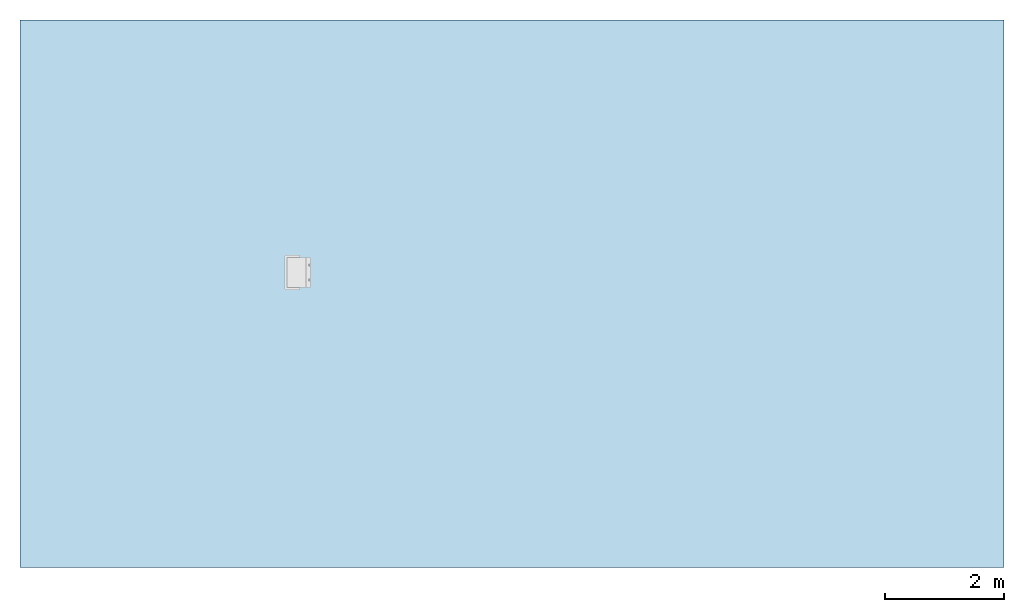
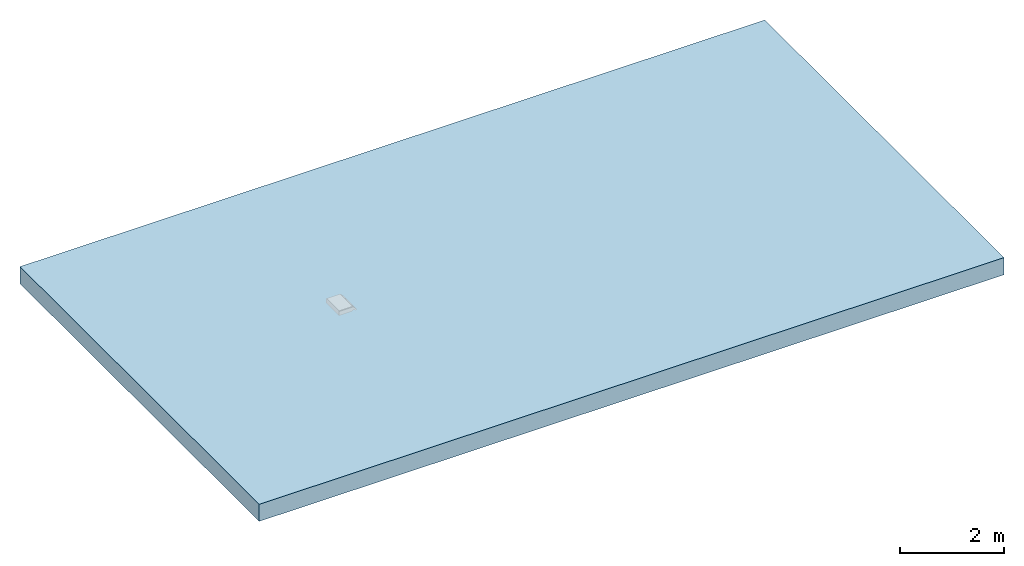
# One storey, incomplete: 1 slab, 3 openings.
"""IFC2X3 building model written with IfcOpenShell, lengths in millimetres."""

from ifc_helpers import new_model, entity, si_unit, converted_unit, direction, frame, frame_2d, origin, place, context, subcontext, project, spatial, polyline, circle_curve, parameter, trimmed, segment, composite_curve, rectangle, outline, extrude, faceted_brep, material, layer, layer_set, layer_usage, element, save


model = new_model("IFC2X3")

# Units and contexts
model_context = context("Model", 3, precision=1e-06, world=origin(), true_north=direction((2.0, 6.12303176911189e-17, 1.0)))
context_of_model = context(None, 3, precision=1e-06, world=origin(), true_north=direction((2.0, 6.12303176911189e-17, 1.0)))
body_context = subcontext(model_context, "Body", "Model", "MODEL_VIEW")
ifc_project = project(units=[si_unit("LENGTHUNIT", "METRE", prefix="MILLI"), si_unit("AREAUNIT", "SQUARE_METRE", prefix="MILLI"), si_unit("VOLUMEUNIT", "CUBIC_METRE", prefix="MILLI"), converted_unit("PLANEANGLEUNIT", "DEGREE", entity("IfcRatioMeasure", 0.0174532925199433), si_unit("PLANEANGLEUNIT", "RADIAN"), dimensions=[0, 0, 0, 0, 0, 0, 0]), si_unit("TIMEUNIT", "SECOND")], contexts=[model_context, context_of_model])

# Site, building, storey
site_placement = place(None, origin())
site = spatial("IfcSite", under=ifc_project, at=site_placement, Name="Default", CompositionType="ELEMENT")
building_placement = place(site_placement, origin())
building = spatial("IfcBuilding", under=site, at=building_placement, CompositionType="ELEMENT")
storey_placement = place(building_placement, origin())
storey = spatial("IfcBuildingStorey", under=building, at=storey_placement, Name="Level 1", CompositionType="ELEMENT", Elevation=0.0)

# Slab, openings
ifc_material = material(Name="Plant")
ifc_layer = layer(ifc_material, 400.0)
ifc_layer_set = layer_set([ifc_layer], Name="Floor:Generic Floor - 400mm")
ifc_layer_usage = layer_usage(ifc_layer_set, "AXIS3", "POSITIVE", 0.0)
slab_placement = place(storey_placement, frame((-17967.0691536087, -3738.31688706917, -400.0)))
slab = element("IfcSlab", 1, at=slab_placement, inside=storey, material=ifc_layer_usage, Name="Floor:Generic Floor - 400mm", ObjectType="Floor:Generic Floor - 400mm", PredefinedType="FLOOR", context=body_context, shape_type="SweptSolid", body=[
    extrude(rectangle(XDim=9180.0, YDim=16500.0, at=frame_2d((0.0, 0.0), x_axis=(0.0, -1.0))), frame((8250.0, 4590.0, 400.0), z_axis=(0.0, 0.0, -1.0), x_axis=(-1.0, 0.0, 0.0)), (0.0, 0.0, 1.0), 400.0),
])
opening_1_placement = place(slab_placement, frame((8950.14834522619, 9349.90839007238, -6490.0)))
element("IfcOpeningElement", 2, at=opening_1_placement, cuts=slab, ObjectType="Opening", context=body_context, shape_type="Brep", body=[
    faceted_brep([(0.0, 499.999875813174, 520.0), (0.352401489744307, 0.0, 520.0), (0.352401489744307, 0.0, 0.0), (0.0, 499.999875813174, 0.0), (322.66101438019, 340.113462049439, 57.0653540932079), (322.66101438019, 340.113462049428, 520.0), (322.54816570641, 500.227208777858, 520.0), (322.900567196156, 0.227332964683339, 0.0), (322.548165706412, 500.227208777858, 0.0), (322.78787894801, 160.113462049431, 57.0653540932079), (322.900567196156, 0.227332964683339, 520.0), (322.787878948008, 160.113462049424, 520.0), (457.135480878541, 340.113462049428, 520.0), (457.135480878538, 160.11346204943, 520.0), (457.135480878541, 340.113462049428, 57.0653540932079), (457.135480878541, 160.11346204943, 57.0653540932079)], [[[0, 1, 2]], [[2, 3, 0]], [[4, 5, 6]], [[7, 4, 8]], [[6, 8, 4]], [[9, 10, 11]], [[4, 7, 9]], [[10, 9, 7]], [[5, 11, 1]], [[10, 1, 11]], [[6, 5, 0]], [[1, 0, 5]], [[5, 12, 11]], [[11, 12, 13]], [[8, 0, 3]], [[0, 8, 6]], [[8, 3, 2]], [[2, 7, 8]], [[7, 2, 1]], [[1, 10, 7]], [[13, 12, 14]], [[14, 15, 13]], [[14, 5, 4]], [[5, 14, 12]], [[14, 4, 9]], [[9, 15, 14]], [[15, 9, 11]], [[11, 13, 15]]]),
])
opening_2_placement = place(slab_placement, frame((8950.14834522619, 9349.90839007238, -6490.0)))
element("IfcOpeningElement", 3, at=opening_2_placement, cuts=slab, ObjectType="Opening", context=body_context, shape_type="SweptSolid", body=[
    extrude(outline(composite_curve([segment(trimmed(circle_curve(frame_2d((0.112460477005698, 0.0), x_axis=(1.0, 0.0)), 250.0), [parameter(129.825371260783)], [parameter(230.174628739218)], True, "PARAMETER"), True, "CONTINUOUS"), segment(polyline([(-160.0, -192.0), (-160.0, -250.0)]), True, "CONTINUOUS"), segment(polyline([(-160.0, -250.0), (0.0, -250.0)]), True, "CONTINUOUS"), segment(polyline([(0.0, -250.0), (160.0, -250.0)]), True, "CONTINUOUS"), segment(polyline([(160.0, -250.0), (160.0, -192.0)]), True, "CONTINUOUS"), segment(trimmed(circle_curve(frame_2d((-0.112460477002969, 0.0), x_axis=(1.0, 0.0)), 250.0), [parameter(309.825371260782)], [parameter(50.1746287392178)], True, "PARAMETER"), True, "CONTINUOUS"), segment(polyline([(160.0, 192.0), (160.0, 250.0)]), True, "CONTINUOUS"), segment(polyline([(160.0, 250.0), (0.0, 250.0)]), True, "CONTINUOUS"), segment(polyline([(0.0, 250.0), (-160.0, 250.0)]), True, "CONTINUOUS"), segment(polyline([(-160.0, 250.0), (-160.0, 192.0)]), True, "CONTINUOUS")], self_intersect=False)), frame((4675.53205557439, 4945.80856217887, -2010.0), z_axis=(0.0, 0.0, 1.0), x_axis=(-1.0, 0.0, 0.0)), (0.0, 0.0, 1.0), 4.99999999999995),
])
opening_3_placement = place(slab_placement, frame((8950.14834522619, 9349.90839007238, -6490.0)))
element("IfcOpeningElement", 4, at=opening_3_placement, cuts=slab, ObjectType="Opening", context=body_context, shape_type="Brep", body=[
    faceted_brep([(43.5952722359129, 541.595272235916, 695.725125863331), (43.5952722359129, 541.595272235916, 770.0), (43.5952722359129, 41.595272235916, 770.0), (43.5952722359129, 41.595272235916, 695.725125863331), (43.5952722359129, 541.595272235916, 350.0), (43.5952722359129, 541.595272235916, 690.0), (43.5952722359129, 41.595272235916, 690.0), (43.5952722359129, 41.595272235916, 350.0), (77.346944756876, 541.595272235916, 350.0), (77.3469447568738, 42.8950540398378, 350.0), (77.3469447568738, 42.8950540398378, 0.0), (77.346944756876, 542.895054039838, 0.0), (77.346944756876, 542.895054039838, 365.0), (77.346944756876, 541.595272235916, 365.0), (398.595272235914, 542.895054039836, 365.0), (398.595272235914, 542.895054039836, 0.0), (398.595272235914, 541.595272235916, 350.0), (398.595272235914, 541.595272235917, 365.0), (398.595272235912, 42.8950540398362, 0.0), (398.595272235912, 42.8950540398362, 350.0), (433.595272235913, 541.595272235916, 350.0), (433.595272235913, 41.595272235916, 350.0), (433.595272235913, 41.595272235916, 770.0), (433.595272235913, 541.595272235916, 770.0), (259.595272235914, 41.595272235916, 695.725125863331), (259.595272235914, 41.595272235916, 690.0), (259.595272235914, 541.595272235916, 695.725125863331), (259.595272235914, 541.595272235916, 690.0), (2.27675571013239, 566.771653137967, 690.0), (1.59527223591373, 561.595272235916, 690.0), (21.5952722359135, 581.595272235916, 690.0), (7.45313661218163, 575.737407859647, 690.0), (4.27476416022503, 571.595272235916, 690.0), (1.59527223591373, 21.5952722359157, 690.0), (2.27675571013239, 16.4188913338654, 690.0), (4.27476416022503, 11.5952722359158, 690.0), (21.5952722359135, 1.5952722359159, 690.0), (11.5952722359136, 4.27476416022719, 690.0), (7.4531366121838, 7.45313661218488, 690.0), (11.5952722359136, 578.915780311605, 690.0), (259.595272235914, 581.595272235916, 690.0), (16.4188913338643, 2.27675571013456, 690.0), (259.595272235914, 1.59527223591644, 690.0), (16.4188913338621, 580.913788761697, 690.0), (259.595272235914, 581.595272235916, 695.725125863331), (21.5952722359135, 581.595272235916, 695.725125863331), (1.59527223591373, 561.595272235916, 695.725125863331), (1.59527223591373, 21.5952722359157, 695.725125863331), (259.595272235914, 1.59527223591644, 695.725125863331), (16.4188913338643, 2.27675571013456, 695.725125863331), (11.5952722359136, 4.27476416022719, 695.725125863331), (21.5952722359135, 1.5952722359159, 695.725125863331), (11.5952722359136, 578.915780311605, 695.725125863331), (16.4188913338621, 580.913788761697, 695.725125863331), (4.27476416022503, 571.595272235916, 695.725125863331), (7.45313661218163, 575.737407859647, 695.725125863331), (2.27675571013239, 566.771653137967, 695.725125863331), (7.4531366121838, 7.45313661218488, 695.725125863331), (4.27476416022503, 11.5952722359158, 695.725125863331), (2.27675571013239, 16.4188913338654, 695.725125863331)], [[[0, 1, 2]], [[2, 3, 0]], [[4, 5, 6]], [[6, 7, 4]], [[8, 9, 10]], [[11, 8, 10]], [[8, 11, 12]], [[13, 8, 12]], [[14, 15, 16]], [[17, 14, 16]], [[18, 19, 16]], [[15, 18, 16]], [[17, 13, 12]], [[12, 14, 17]], [[14, 12, 11]], [[11, 15, 14]], [[18, 11, 10]], [[11, 18, 15]], [[19, 10, 9]], [[10, 19, 18]], [[20, 19, 21]], [[7, 21, 19]], [[19, 20, 16]], [[4, 7, 9]], [[19, 9, 7]], [[9, 8, 4]], [[22, 2, 1]], [[1, 23, 22]], [[24, 3, 2]], [[25, 24, 22]], [[2, 22, 24]], [[25, 7, 6]], [[22, 21, 25]], [[7, 25, 21]], [[21, 22, 23]], [[23, 20, 21]], [[26, 27, 23]], [[17, 23, 27]], [[1, 26, 23]], [[1, 0, 26]], [[5, 13, 27]], [[16, 20, 17]], [[23, 17, 20]], [[4, 8, 13]], [[5, 4, 13]], [[27, 13, 17]], [[28, 29, 30]], [[31, 32, 30]], [[30, 32, 28]], [[29, 33, 5]], [[34, 35, 36]], [[37, 36, 38]], [[38, 36, 35]], [[33, 34, 36]], [[30, 39, 31]], [[29, 5, 30]], [[27, 40, 5]], [[30, 5, 40]], [[33, 6, 5]], [[36, 37, 41]], [[42, 25, 6]], [[36, 42, 6]], [[33, 36, 6]], [[39, 30, 43]], [[0, 44, 26]], [[45, 0, 46]], [[44, 0, 45]], [[47, 0, 3]], [[3, 24, 48]], [[49, 50, 51]], [[51, 47, 3]], [[48, 51, 3]], [[45, 52, 53]], [[45, 54, 55]], [[56, 45, 46]], [[56, 54, 45]], [[46, 0, 47]], [[57, 51, 50]], [[51, 57, 58]], [[58, 59, 51]], [[51, 59, 47]], [[52, 45, 55]], [[56, 46, 28]], [[54, 56, 32]], [[28, 46, 29]], [[56, 28, 32]], [[54, 32, 31]], [[31, 55, 54]], [[52, 55, 39]], [[53, 52, 43]], [[43, 52, 39]], [[53, 43, 30]], [[53, 30, 45]], [[31, 39, 55]], [[47, 33, 29]], [[29, 46, 47]], [[49, 51, 41]], [[50, 49, 37]], [[41, 51, 36]], [[49, 41, 37]], [[50, 37, 38]], [[38, 57, 50]], [[58, 57, 35]], [[59, 58, 34]], [[34, 58, 35]], [[59, 34, 33]], [[59, 33, 47]], [[38, 35, 57]], [[48, 42, 36]], [[36, 51, 48]], [[24, 25, 42]], [[42, 48, 24]], [[26, 40, 27]], [[40, 26, 44]], [[44, 30, 40]], [[30, 44, 45]]]),
])

save(model, "model.ifc")
